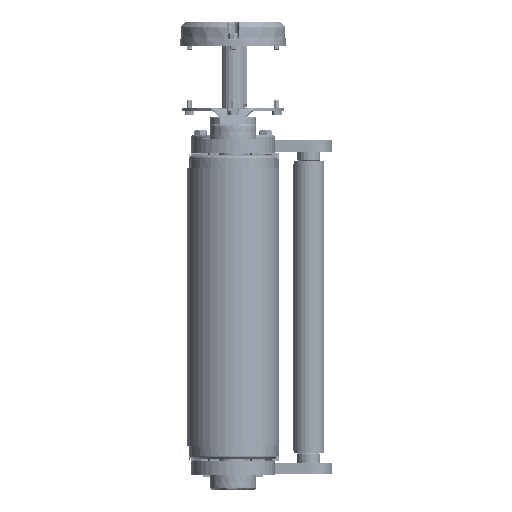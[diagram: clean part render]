
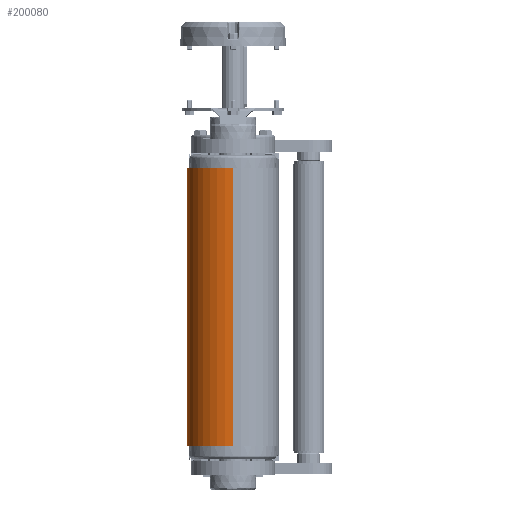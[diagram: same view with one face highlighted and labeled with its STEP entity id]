
A CAD part, left-side view. The second image highlights one B-rep face of the part: STEP entity #200080.
In plain terms, the highlighted cylindrical face has radius 49.5 mm (diameter 99 mm), a partial arc.
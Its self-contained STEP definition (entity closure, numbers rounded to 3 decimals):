
#5950 = ORIENTED_EDGE ( 'NONE', *, *, #165537, .T. ) ;
#10945 = EDGE_CURVE ( 'NONE', #44073, #178886, #55332, .T. ) ;
#31023 = DIRECTION ( 'NONE',  ( -1., 0., 0. ) ) ;
#38901 = ORIENTED_EDGE ( 'NONE', *, *, #10945, .F. ) ;
#44073 = VERTEX_POINT ( 'NONE', #149953 ) ;
#49172 = LINE ( 'NONE', #86304, #183091 ) ;
#52012 = FACE_OUTER_BOUND ( 'NONE', #224668, .T. ) ;
#55332 = LINE ( 'NONE', #205022, #242397 ) ;
#63795 = AXIS2_PLACEMENT_3D ( 'NONE', #85498, #86720, #31023 ) ;
#79427 = CARTESIAN_POINT ( 'NONE',  ( -5500., 0., -150. ) ) ;
#80200 = CARTESIAN_POINT ( 'NONE',  ( -5549.5, 0., -150. ) ) ;
#81050 = DIRECTION ( 'NONE',  ( 1., 0., 0. ) ) ;
#85498 = CARTESIAN_POINT ( 'NONE',  ( -5500., 0., 150. ) ) ;
#86304 = CARTESIAN_POINT ( 'NONE',  ( -5500., 49.5, 150. ) ) ;
#86720 = DIRECTION ( 'NONE',  ( 0., 0., -1. ) ) ;
#105304 = CYLINDRICAL_SURFACE ( 'NONE', #63795, 49.5 ) ;
#105920 = ORIENTED_EDGE ( 'NONE', *, *, #225739, .F. ) ;
#133333 = AXIS2_PLACEMENT_3D ( 'NONE', #175083, #156507, #81050 ) ;
#140888 = DIRECTION ( 'NONE',  ( 0., 0., 1. ) ) ;
#149377 = DIRECTION ( 'NONE',  ( 0., 0., -1. ) ) ;
#149953 = CARTESIAN_POINT ( 'NONE',  ( -5549.5, 0., 150. ) ) ;
#154912 = DIRECTION ( 'NONE',  ( 1., 0., 0. ) ) ;
#155558 = EDGE_CURVE ( 'NONE', #237275, #203639, #49172, .T. ) ;
#156507 = DIRECTION ( 'NONE',  ( 0., 0., 1. ) ) ;
#161017 = CIRCLE ( 'NONE', #133333, 49.5 ) ;
#165537 = EDGE_CURVE ( 'NONE', #203639, #178886, #173204, .T. ) ;
#173204 = CIRCLE ( 'NONE', #236445, 49.5 ) ;
#175083 = CARTESIAN_POINT ( 'NONE',  ( -5500., 0., 150. ) ) ;
#178886 = VERTEX_POINT ( 'NONE', #80200 ) ;
#183091 = VECTOR ( 'NONE', #236031, 1000. ) ;
#186179 = ORIENTED_EDGE ( 'NONE', *, *, #155558, .T. ) ;
#192406 = CARTESIAN_POINT ( 'NONE',  ( -5500., 49.5, -150. ) ) ;
#194380 = CARTESIAN_POINT ( 'NONE',  ( -5500., 49.5, 150. ) ) ;
#200080 = ADVANCED_FACE ( 'NONE', ( #52012 ), #105304, .T. ) ;
#203639 = VERTEX_POINT ( 'NONE', #192406 ) ;
#205022 = CARTESIAN_POINT ( 'NONE',  ( -5549.5, 0., 150. ) ) ;
#224668 = EDGE_LOOP ( 'NONE', ( #38901, #105920, #186179, #5950 ) ) ;
#225739 = EDGE_CURVE ( 'NONE', #237275, #44073, #161017, .T. ) ;
#236031 = DIRECTION ( 'NONE',  ( 0., 0., -1. ) ) ;
#236445 = AXIS2_PLACEMENT_3D ( 'NONE', #79427, #140888, #154912 ) ;
#237275 = VERTEX_POINT ( 'NONE', #194380 ) ;
#242397 = VECTOR ( 'NONE', #149377, 1000. ) ;
